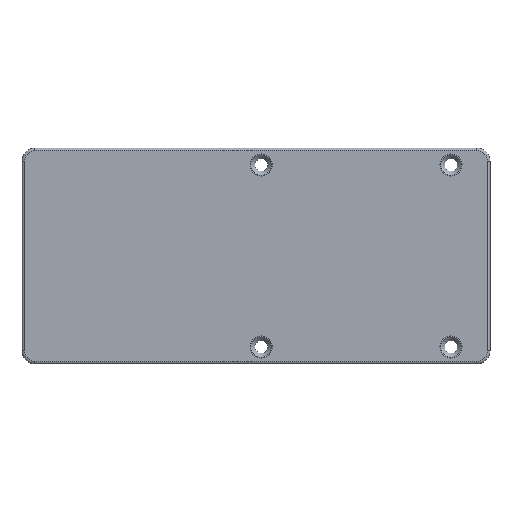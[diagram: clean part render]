
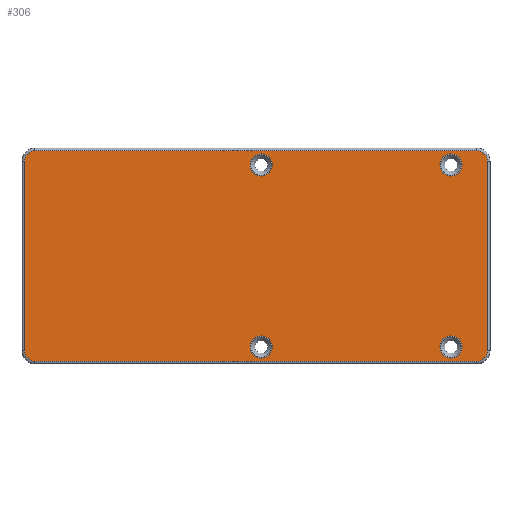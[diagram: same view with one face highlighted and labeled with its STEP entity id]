
A CAD part, top view. The second image highlights one B-rep face of the part: STEP entity #306.
In plain terms, the highlighted planar face has unit normal (0, 0, 1).
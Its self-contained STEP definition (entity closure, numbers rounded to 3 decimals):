
#187=CARTESIAN_POINT('',(0.,0.,2.));
#188=DIRECTION('',(0.,0.,1.));
#189=DIRECTION('',(1.,0.,0.));
#190=AXIS2_PLACEMENT_3D('',#187,#188,#189);
#191=PLANE('',#190);
#192=CARTESIAN_POINT('',(1.,358.,2.));
#193=VERTEX_POINT('',#192);
#194=CARTESIAN_POINT('',(1.,285.,2.));
#195=VERTEX_POINT('',#194);
#196=CARTESIAN_POINT('',(1.,358.,2.));
#197=DIRECTION('',(-0.,-1.,-0.));
#198=VECTOR('',#197,73.);
#199=LINE('',#196,#198);
#200=EDGE_CURVE('',#193,#195,#199,.T.);
#201=ORIENTED_EDGE('',*,*,#200,.T.);
#202=CARTESIAN_POINT('',(5.,281.,2.));
#203=VERTEX_POINT('',#202);
#204=CARTESIAN_POINT('',(5.,285.,2.));
#205=DIRECTION('',(0.,0.,1.));
#206=DIRECTION('',(1.,0.,-0.));
#207=AXIS2_PLACEMENT_3D('',#204,#205,#206);
#208=CIRCLE('',#207,4.);
#209=EDGE_CURVE('',#195,#203,#208,.T.);
#210=ORIENTED_EDGE('',*,*,#209,.T.);
#211=CARTESIAN_POINT('',(175.,281.,2.));
#212=VERTEX_POINT('',#211);
#213=CARTESIAN_POINT('',(5.,281.,2.));
#214=DIRECTION('',(1.,-0.,-0.));
#215=VECTOR('',#214,170.);
#216=LINE('',#213,#215);
#217=EDGE_CURVE('',#203,#212,#216,.T.);
#218=ORIENTED_EDGE('',*,*,#217,.T.);
#219=CARTESIAN_POINT('',(179.,285.,2.));
#220=VERTEX_POINT('',#219);
#221=CARTESIAN_POINT('',(175.,285.,2.));
#222=DIRECTION('',(0.,0.,1.));
#223=DIRECTION('',(1.,0.,-0.));
#224=AXIS2_PLACEMENT_3D('',#221,#222,#223);
#225=CIRCLE('',#224,4.);
#226=EDGE_CURVE('',#212,#220,#225,.T.);
#227=ORIENTED_EDGE('',*,*,#226,.T.);
#228=CARTESIAN_POINT('',(179.,358.,2.));
#229=VERTEX_POINT('',#228);
#230=CARTESIAN_POINT('',(179.,285.,2.));
#231=DIRECTION('',(-0.,1.,-0.));
#232=VECTOR('',#231,73.);
#233=LINE('',#230,#232);
#234=EDGE_CURVE('',#220,#229,#233,.T.);
#235=ORIENTED_EDGE('',*,*,#234,.T.);
#236=CARTESIAN_POINT('',(175.,362.,2.));
#237=VERTEX_POINT('',#236);
#238=CARTESIAN_POINT('',(175.,358.,2.));
#239=DIRECTION('',(0.,0.,1.));
#240=DIRECTION('',(1.,0.,-0.));
#241=AXIS2_PLACEMENT_3D('',#238,#239,#240);
#242=CIRCLE('',#241,4.);
#243=EDGE_CURVE('',#229,#237,#242,.T.);
#244=ORIENTED_EDGE('',*,*,#243,.T.);
#245=CARTESIAN_POINT('',(5.,362.,2.));
#246=VERTEX_POINT('',#245);
#247=CARTESIAN_POINT('',(175.,362.,2.));
#248=DIRECTION('',(-1.,-0.,0.));
#249=VECTOR('',#248,170.);
#250=LINE('',#247,#249);
#251=EDGE_CURVE('',#237,#246,#250,.T.);
#252=ORIENTED_EDGE('',*,*,#251,.T.);
#253=CARTESIAN_POINT('',(5.,358.,2.));
#254=DIRECTION('',(0.,0.,1.));
#255=DIRECTION('',(1.,0.,-0.));
#256=AXIS2_PLACEMENT_3D('',#253,#254,#255);
#257=CIRCLE('',#256,4.);
#258=EDGE_CURVE('',#246,#193,#257,.T.);
#259=ORIENTED_EDGE('',*,*,#258,.T.);
#260=EDGE_LOOP('',(#201,#210,#218,#227,#235,#244,#252,#259));
#261=FACE_BOUND('',#260,.T.);
#262=CARTESIAN_POINT('',(96.25,286.5,2.));
#263=VERTEX_POINT('',#262);
#264=CARTESIAN_POINT('',(92.,286.5,2.));
#265=DIRECTION('',(0.,0.,1.));
#266=DIRECTION('',(1.,0.,-0.));
#267=AXIS2_PLACEMENT_3D('',#264,#265,#266);
#268=CIRCLE('',#267,4.25);
#269=EDGE_CURVE('',#263,#263,#268,.T.);
#270=ORIENTED_EDGE('',*,*,#269,.F.);
#271=EDGE_LOOP('',(#270));
#272=FACE_BOUND('',#271,.T.);
#273=CARTESIAN_POINT('',(169.25,286.5,2.));
#274=VERTEX_POINT('',#273);
#275=CARTESIAN_POINT('',(165.,286.5,2.));
#276=DIRECTION('',(0.,0.,1.));
#277=DIRECTION('',(1.,0.,-0.));
#278=AXIS2_PLACEMENT_3D('',#275,#276,#277);
#279=CIRCLE('',#278,4.25);
#280=EDGE_CURVE('',#274,#274,#279,.T.);
#281=ORIENTED_EDGE('',*,*,#280,.F.);
#282=EDGE_LOOP('',(#281));
#283=FACE_BOUND('',#282,.T.);
#284=CARTESIAN_POINT('',(169.25,356.5,2.));
#285=VERTEX_POINT('',#284);
#286=CARTESIAN_POINT('',(165.,356.5,2.));
#287=DIRECTION('',(0.,0.,1.));
#288=DIRECTION('',(1.,0.,-0.));
#289=AXIS2_PLACEMENT_3D('',#286,#287,#288);
#290=CIRCLE('',#289,4.25);
#291=EDGE_CURVE('',#285,#285,#290,.T.);
#292=ORIENTED_EDGE('',*,*,#291,.F.);
#293=EDGE_LOOP('',(#292));
#294=FACE_BOUND('',#293,.T.);
#295=CARTESIAN_POINT('',(96.25,356.5,2.));
#296=VERTEX_POINT('',#295);
#297=CARTESIAN_POINT('',(92.,356.5,2.));
#298=DIRECTION('',(0.,0.,1.));
#299=DIRECTION('',(1.,0.,-0.));
#300=AXIS2_PLACEMENT_3D('',#297,#298,#299);
#301=CIRCLE('',#300,4.25);
#302=EDGE_CURVE('',#296,#296,#301,.T.);
#303=ORIENTED_EDGE('',*,*,#302,.F.);
#304=EDGE_LOOP('',(#303));
#305=FACE_BOUND('',#304,.T.);
#306=ADVANCED_FACE('',(#261,#272,#283,#294,#305),#191,.T.);
